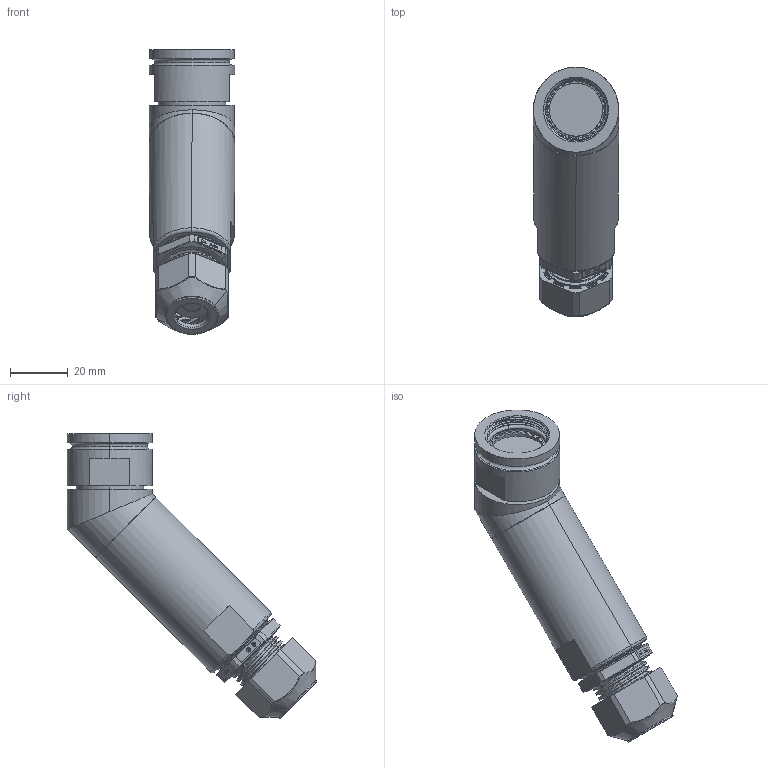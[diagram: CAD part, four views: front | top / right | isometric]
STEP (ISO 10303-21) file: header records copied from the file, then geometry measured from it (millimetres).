
FILE_DESCRIPTION (( 'STEP AP214' ), '1' );
FILE_NAME ('Q38SHELL-45X-15-XXXX-GL.STEP', '2025-09-25T21:54:48', ( '' ), ( '' ), 'SwSTEP 2.0', 'SolidWorks 2024', '' );
FILE_SCHEMA (( 'AUTOMOTIVE_DESIGN' ));
Length unit declared in the file: millimetre
Products named in the file (1): Q38SHELL-45X-15-XXXX-GL
Bounding box: 29.54 x 86.52 x 98.77 mm (x, y, z)
Surface area: 23110.3 mm2 (no closed solid volume)
Topology: 0 solids, 8 shells, 1327 faces, 3415 edges, 2162 vertices
Faces by surface type: plane 638, cylinder 257, bspline 150, torus 121, cone 107, sphere 54
Entity records: 60913 total; most frequent: CARTESIAN_POINT 35080, ORIENTED_EDGE 6815, EDGE_CURVE 3414, DIRECTION 3148, B_SPLINE_CURVE_WITH_KNOTS 2668, VERTEX_POINT 2162, AXIS2_PLACEMENT_3D 1448, EDGE_LOOP 1395
